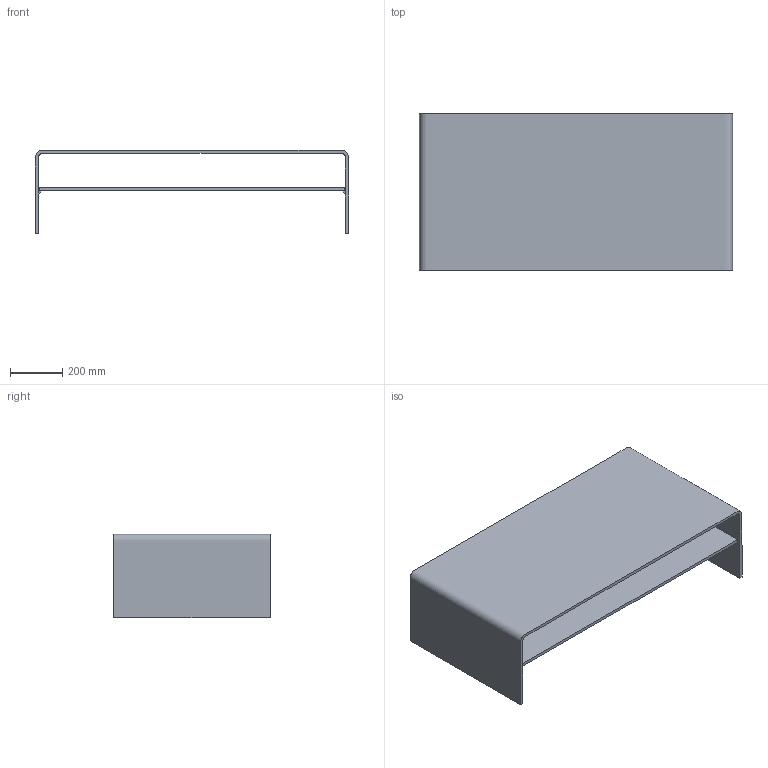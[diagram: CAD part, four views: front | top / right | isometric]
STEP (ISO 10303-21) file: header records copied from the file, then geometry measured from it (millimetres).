
FILE_DESCRIPTION(/* description */ (''),/* implementation_level */ '2;1');
FILE_NAME(/* name */ '0198 - Rialto Piano 120x60',/* time_stamp */ '2010-11-04T09:24:20+01:00',/* author */ (''),/* organization */ (''),/* preprocessor_version */ 'ST-DEVELOPER v10',/* originating_system */ '',/* authorisation */ '');
FILE_SCHEMA (('CONFIG_CONTROL_DESIGN'));
Length unit declared in the file: centimetre
Products named in the file (1): 1
Bounding box: 1200 x 600 x 320 mm (x, y, z)
Volume: 17500900.3 mm3; surface area: 3586055.7 mm2
Topology: 6 solids, 6 shells, 41 faces, 87 edges, 58 vertices
Faces by surface type: plane 38, bspline 3
Entity records: 1123 total; most frequent: CARTESIAN_POINT 384, ORIENTED_EDGE 174, EDGE_CURVE 87, B_SPLINE_CURVE_WITH_KNOTS 81, VERTEX_POINT 58, DIRECTION 42, ADVANCED_FACE 41, FACE_OUTER_BOUND 41
